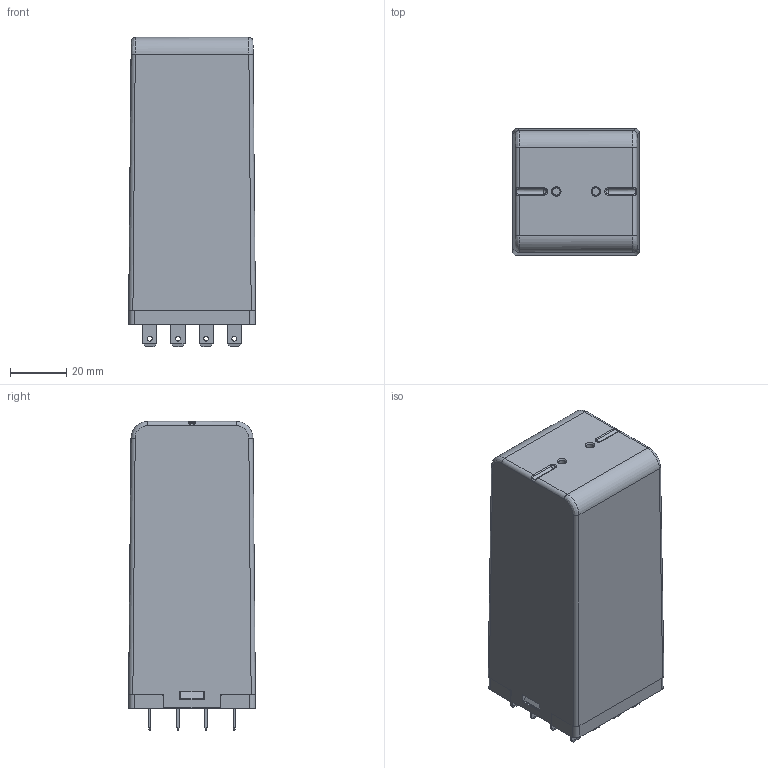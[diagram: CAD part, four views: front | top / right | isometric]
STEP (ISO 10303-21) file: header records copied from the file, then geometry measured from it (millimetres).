
FILE_DESCRIPTION((''),'2;1');
FILE_NAME('C:\Documents and Settings\Arnoud\Bureaublad\B400-F.stp','2009-03-04T15:35:26',('Arnoud'),(''),'Autodesk Inventor 2009','Autodesk Inventor 2009','');
FILE_SCHEMA(('AUTOMOTIVE_DESIGN { 1 0 10303 214 1 1 1 1 }'));
Length unit declared in the file: millimetre
Products named in the file (1): B400-F
Bounding box: 45.04 x 45 x 109.7 mm (x, y, z)
Volume: 42927.5 mm3; surface area: 48156.8 mm2
Topology: 1 solids, 1 shells, 909 faces, 2628 edges, 1630 vertices
Faces by surface type: plane 744, cylinder 145, bspline 14, cone 2, torus 2, sphere 2
Full cylindrical faces by diameter (mm): 1.6 x16, 1.7 x16, 2.625 x2, 3.1 x4, 3.15 x4, 3.5 x4, 7 x2
Entity records: 30936 total; most frequent: CARTESIAN_POINT 6892, ORIENTED_EDGE 5144, DIRECTION 4666, EDGE_CURVE 2572, VECTOR 2254, LINE 2254, VERTEX_POINT 1626, AXIS2_PLACEMENT_3D 1206
